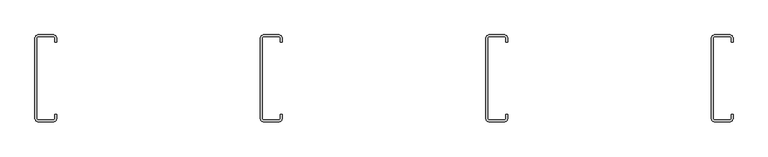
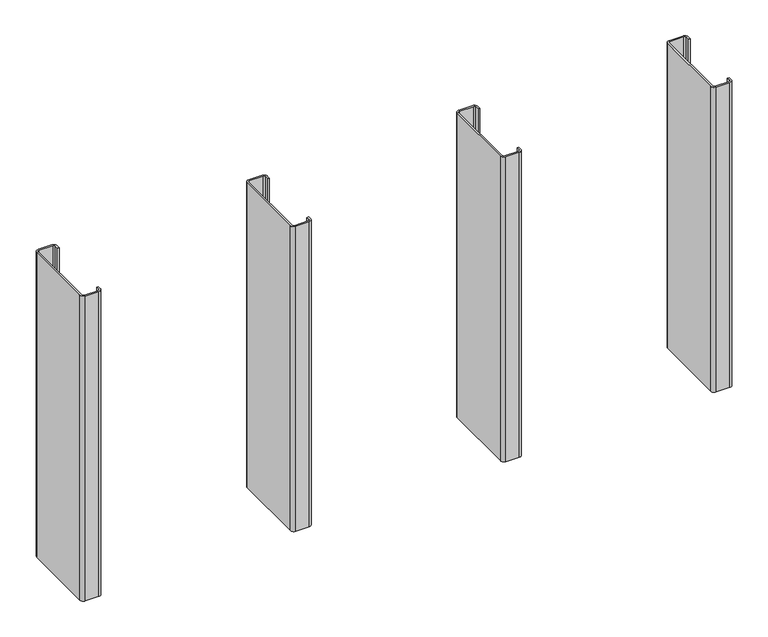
"""IFC4 building model written with IfcOpenShell, lengths in millimetres: proxy geometry, CRAi Generic Model Metal Stud Array : CRAi Generic Model Metal Stud Array."""

from ifc_helpers import new_model, si_unit, point, frame_2d, origin, origin_with_axes, place, context, project, spatial, polyline, circle_curve, trimmed, segment, composite_curve, outline, extrude, source, transform, mapped, element, save


def generic_models_2388f69b(model_context):
    return source(origin(), model_context, "Body", "SweptSolid", [
        extrude(outline(composite_curve([segment(polyline([(609.6, 63.5), (606.425, 63.5), (606.425, 70.2679713)]), True, "CONTINUOUS"), segment(trimmed(circle_curve(frame_2d((603.25, 69.85)), 3.2023936), [point((606.425, 70.2679713))], [point((603.6679713, 73.025))], True, "CARTESIAN"), True, "CONTINUOUS"), segment(polyline([(603.6679713, 73.025), (577.4320287, 73.025)]), True, "CONTINUOUS"), segment(trimmed(circle_curve(frame_2d((577.85, 69.85)), 3.2023936), [point((577.4320287, 73.025))], [point((574.675, 70.2679713))], True, "CARTESIAN"), True, "CONTINUOUS"), segment(polyline([(574.675, 70.2679713), (574.675, -70.2679713)]), True, "CONTINUOUS"), segment(trimmed(circle_curve(frame_2d((577.85, -69.85)), 3.2023936), [point((574.675, -70.2679713))], [point((577.4320287, -73.025))], True, "CARTESIAN"), True, "CONTINUOUS"), segment(polyline([(577.4320287, -73.025), (603.6679713, -73.025)]), True, "CONTINUOUS"), segment(trimmed(circle_curve(frame_2d((603.25, -69.85)), 3.2023936), [point((603.6679713, -73.025))], [point((606.425, -70.2679713))], True, "CARTESIAN"), True, "CONTINUOUS"), segment(polyline([(606.425, -70.2679713), (606.425, -63.5), (609.6, -63.5), (609.6, -69.85)]), True, "CONTINUOUS"), segment(trimmed(circle_curve(frame_2d((603.25, -69.85)), 6.35), [point((609.6, -69.85))], [point((603.25, -76.2))], False, "CARTESIAN"), True, "CONTINUOUS"), segment(polyline([(603.25, -76.2), (577.85, -76.2)]), True, "CONTINUOUS"), segment(trimmed(circle_curve(frame_2d((577.85, -69.85)), 6.35), [point((577.85, -76.2))], [point((571.5, -69.85))], False, "CARTESIAN"), True, "CONTINUOUS"), segment(polyline([(571.5, -69.85), (571.5, 69.85)]), True, "CONTINUOUS"), segment(trimmed(circle_curve(frame_2d((577.85, 69.85)), 6.35), [point((571.5, 69.85))], [point((577.85, 76.2))], False, "CARTESIAN"), True, "CONTINUOUS"), segment(polyline([(577.85, 76.2), (603.25, 76.2)]), True, "CONTINUOUS"), segment(trimmed(circle_curve(frame_2d((603.25, 69.85)), 6.35), [point((603.25, 76.2))], [point((609.6, 69.85))], False, "CARTESIAN"), True, "CONTINUOUS"), segment(polyline([(609.6, 69.85), (609.6, 63.5)]), True, "CONTINUOUS")], self_intersect=False)), origin_with_axes(), (0.0, 0.0, 1.0), 603.25),
        extrude(outline(composite_curve([segment(polyline([(215.9, 63.5), (212.725, 63.5), (212.725, 70.2679713)]), True, "CONTINUOUS"), segment(trimmed(circle_curve(frame_2d((209.55, 69.85)), 3.2023936), [point((212.725, 70.2679713))], [point((209.9679713, 73.025))], True, "CARTESIAN"), True, "CONTINUOUS"), segment(polyline([(209.9679713, 73.025), (183.7320287, 73.025)]), True, "CONTINUOUS"), segment(trimmed(circle_curve(frame_2d((184.15, 69.85)), 3.2023936), [point((183.7320287, 73.025))], [point((180.975, 70.2679713))], True, "CARTESIAN"), True, "CONTINUOUS"), segment(polyline([(180.975, 70.2679713), (180.975, -70.2679713)]), True, "CONTINUOUS"), segment(trimmed(circle_curve(frame_2d((184.15, -69.85)), 3.2023936), [point((180.975, -70.2679713))], [point((183.7320287, -73.025))], True, "CARTESIAN"), True, "CONTINUOUS"), segment(polyline([(183.7320287, -73.025), (209.9679713, -73.025)]), True, "CONTINUOUS"), segment(trimmed(circle_curve(frame_2d((209.55, -69.85)), 3.2023936), [point((209.9679713, -73.025))], [point((212.725, -70.2679713))], True, "CARTESIAN"), True, "CONTINUOUS"), segment(polyline([(212.725, -70.2679713), (212.725, -63.5), (215.9, -63.5), (215.9, -69.85)]), True, "CONTINUOUS"), segment(trimmed(circle_curve(frame_2d((209.55, -69.85)), 6.35), [point((215.9, -69.85))], [point((209.55, -76.2))], False, "CARTESIAN"), True, "CONTINUOUS"), segment(polyline([(209.55, -76.2), (184.15, -76.2)]), True, "CONTINUOUS"), segment(trimmed(circle_curve(frame_2d((184.15, -69.85)), 6.35), [point((184.15, -76.2))], [point((177.8, -69.85))], False, "CARTESIAN"), True, "CONTINUOUS"), segment(polyline([(177.8, -69.85), (177.8, 69.85)]), True, "CONTINUOUS"), segment(trimmed(circle_curve(frame_2d((184.15, 69.85)), 6.35), [point((177.8, 69.85))], [point((184.15, 76.2))], False, "CARTESIAN"), True, "CONTINUOUS"), segment(polyline([(184.15, 76.2), (209.55, 76.2)]), True, "CONTINUOUS"), segment(trimmed(circle_curve(frame_2d((209.55, 69.85)), 6.35), [point((209.55, 76.2))], [point((215.9, 69.85))], False, "CARTESIAN"), True, "CONTINUOUS"), segment(polyline([(215.9, 69.85), (215.9, 63.5)]), True, "CONTINUOUS")], self_intersect=False)), origin_with_axes(), (0.0, 0.0, 1.0), 603.25),
        extrude(outline(composite_curve([segment(polyline([(-177.8, 63.5), (-180.975, 63.5), (-180.975, 70.2679713)]), True, "CONTINUOUS"), segment(trimmed(circle_curve(frame_2d((-184.15, 69.85)), 3.2023936), [point((-180.975, 70.2679713))], [point((-183.7320287, 73.025))], True, "CARTESIAN"), True, "CONTINUOUS"), segment(polyline([(-183.7320287, 73.025), (-209.9679713, 73.025)]), True, "CONTINUOUS"), segment(trimmed(circle_curve(frame_2d((-209.55, 69.85)), 3.2023936), [point((-209.9679713, 73.025))], [point((-212.725, 70.2679713))], True, "CARTESIAN"), True, "CONTINUOUS"), segment(polyline([(-212.725, 70.2679713), (-212.725, -70.2679713)]), True, "CONTINUOUS"), segment(trimmed(circle_curve(frame_2d((-209.55, -69.85)), 3.2023936), [point((-212.725, -70.2679713))], [point((-209.9679713, -73.025))], True, "CARTESIAN"), True, "CONTINUOUS"), segment(polyline([(-209.9679713, -73.025), (-183.7320287, -73.025)]), True, "CONTINUOUS"), segment(trimmed(circle_curve(frame_2d((-184.15, -69.85)), 3.2023936), [point((-183.7320287, -73.025))], [point((-180.975, -70.2679713))], True, "CARTESIAN"), True, "CONTINUOUS"), segment(polyline([(-180.975, -70.2679713), (-180.975, -63.5), (-177.8, -63.5), (-177.8, -69.85)]), True, "CONTINUOUS"), segment(trimmed(circle_curve(frame_2d((-184.15, -69.85)), 6.35), [point((-177.8, -69.85))], [point((-184.15, -76.2))], False, "CARTESIAN"), True, "CONTINUOUS"), segment(polyline([(-184.15, -76.2), (-209.55, -76.2)]), True, "CONTINUOUS"), segment(trimmed(circle_curve(frame_2d((-209.55, -69.85)), 6.35), [point((-209.55, -76.2))], [point((-215.9, -69.85))], False, "CARTESIAN"), True, "CONTINUOUS"), segment(polyline([(-215.9, -69.85), (-215.9, 69.85)]), True, "CONTINUOUS"), segment(trimmed(circle_curve(frame_2d((-209.55, 69.85)), 6.35), [point((-215.9, 69.85))], [point((-209.55, 76.2))], False, "CARTESIAN"), True, "CONTINUOUS"), segment(polyline([(-209.55, 76.2), (-184.15, 76.2)]), True, "CONTINUOUS"), segment(trimmed(circle_curve(frame_2d((-184.15, 69.85)), 6.35), [point((-184.15, 76.2))], [point((-177.8, 69.85))], False, "CARTESIAN"), True, "CONTINUOUS"), segment(polyline([(-177.8, 69.85), (-177.8, 63.5)]), True, "CONTINUOUS")], self_intersect=False)), origin_with_axes(), (0.0, 0.0, 1.0), 603.25),
        extrude(outline(composite_curve([segment(polyline([(-571.5, 63.5), (-574.675, 63.5), (-574.675, 70.2679713)]), True, "CONTINUOUS"), segment(trimmed(circle_curve(frame_2d((-577.85, 69.85)), 3.2023936), [point((-574.675, 70.2679713))], [point((-577.4320287, 73.025))], True, "CARTESIAN"), True, "CONTINUOUS"), segment(polyline([(-577.4320287, 73.025), (-603.6679713, 73.025)]), True, "CONTINUOUS"), segment(trimmed(circle_curve(frame_2d((-603.25, 69.85)), 3.2023936), [point((-603.6679713, 73.025))], [point((-606.425, 70.2679713))], True, "CARTESIAN"), True, "CONTINUOUS"), segment(polyline([(-606.425, 70.2679713), (-606.425, -70.2679713)]), True, "CONTINUOUS"), segment(trimmed(circle_curve(frame_2d((-603.25, -69.85)), 3.2023936), [point((-606.425, -70.2679713))], [point((-603.6679713, -73.025))], True, "CARTESIAN"), True, "CONTINUOUS"), segment(polyline([(-603.6679713, -73.025), (-577.4320287, -73.025)]), True, "CONTINUOUS"), segment(trimmed(circle_curve(frame_2d((-577.85, -69.85)), 3.2023936), [point((-577.4320287, -73.025))], [point((-574.675, -70.2679713))], True, "CARTESIAN"), True, "CONTINUOUS"), segment(polyline([(-574.675, -70.2679713), (-574.675, -63.5), (-571.5, -63.5), (-571.5, -69.85)]), True, "CONTINUOUS"), segment(trimmed(circle_curve(frame_2d((-577.85, -69.85)), 6.35), [point((-571.5, -69.85))], [point((-577.85, -76.2))], False, "CARTESIAN"), True, "CONTINUOUS"), segment(polyline([(-577.85, -76.2), (-603.25, -76.2)]), True, "CONTINUOUS"), segment(trimmed(circle_curve(frame_2d((-603.25, -69.85)), 6.35), [point((-603.25, -76.2))], [point((-609.6, -69.85))], False, "CARTESIAN"), True, "CONTINUOUS"), segment(polyline([(-609.6, -69.85), (-609.6, 69.85)]), True, "CONTINUOUS"), segment(trimmed(circle_curve(frame_2d((-603.25, 69.85)), 6.35), [point((-609.6, 69.85))], [point((-603.25, 76.2))], False, "CARTESIAN"), True, "CONTINUOUS"), segment(polyline([(-603.25, 76.2), (-577.85, 76.2)]), True, "CONTINUOUS"), segment(trimmed(circle_curve(frame_2d((-577.85, 69.85)), 6.35), [point((-577.85, 76.2))], [point((-571.5, 69.85))], False, "CARTESIAN"), True, "CONTINUOUS"), segment(polyline([(-571.5, 69.85), (-571.5, 63.5)]), True, "CONTINUOUS")], self_intersect=False)), origin_with_axes(), (0.0, 0.0, 1.0), 603.25),
    ])


if __name__ == "__main__":
    model = new_model("IFC4")
    model_context = context("Model", 3, world=origin())
    ifc_project = project(units=[si_unit("LENGTHUNIT", "METRE", prefix="MILLI")], contexts=[model_context])
    site = spatial("IfcSite", under=ifc_project)
    building = spatial("IfcBuilding", under=site)
    placement = place(None, origin())
    generic_models_shape = generic_models_2388f69b(model_context)
    element("IfcBuildingElementProxy", 1, Name="CRAi Generic Model Metal Stud Array : CRAi Generic Model Metal Stud Array", ObjectType="CRAi Generic Model Metal Stud Array : CRAi Generic Model Metal Stud Array", at=placement, inside=building, context=model_context, shape_type="MappedRepresentation", body=[
        mapped(generic_models_shape, transform((0.0, 0.0, 0.0), x_axis=(1.0, 0.0, 0.0), y_axis=(0.0, 1.0, 0.0), z_axis=(0.0, 0.0, 1.0))),
    ])
    save(model, "model.ifc")
